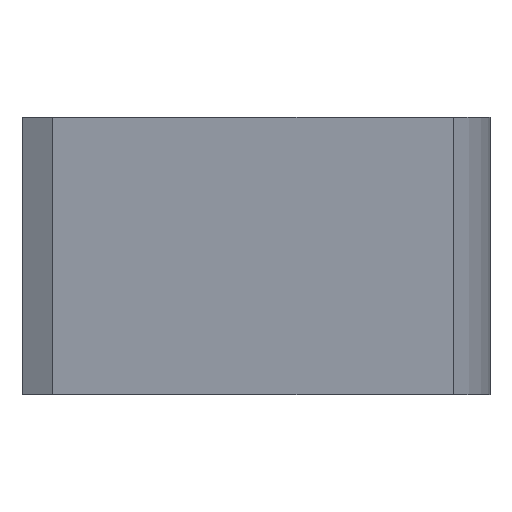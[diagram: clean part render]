
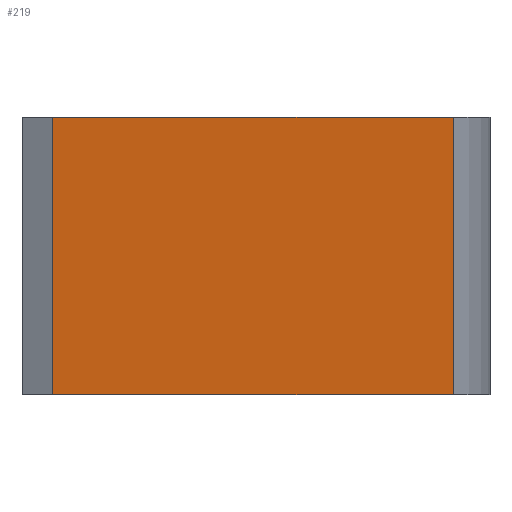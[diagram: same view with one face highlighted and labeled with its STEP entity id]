
A CAD part, front view. The second image highlights one B-rep face of the part: STEP entity #219.
In plain terms, the highlighted planar face has unit normal (0.854, -0.52, 0).
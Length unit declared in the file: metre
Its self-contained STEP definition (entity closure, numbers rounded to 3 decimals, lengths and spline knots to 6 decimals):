
#44=ORIENTED_EDGE('',*,*,#99,.F.);
#45=ORIENTED_EDGE('',*,*,#100,.T.);
#46=ORIENTED_EDGE('',*,*,#101,.T.);
#47=ORIENTED_EDGE('',*,*,#98,.F.);
#98=EDGE_CURVE('',#123,#122,#146,.T.);
#99=EDGE_CURVE('',#124,#123,#147,.T.);
#100=EDGE_CURVE('',#124,#125,#148,.T.);
#101=EDGE_CURVE('',#125,#122,#149,.T.);
#122=VERTEX_POINT('',#354);
#123=VERTEX_POINT('',#356);
#124=VERTEX_POINT('',#360);
#125=VERTEX_POINT('',#362);
#146=LINE('',#357,#171);
#147=LINE('',#359,#172);
#148=LINE('',#361,#173);
#149=LINE('',#363,#174);
#171=VECTOR('',#290,1.);
#172=VECTOR('',#293,1.);
#173=VECTOR('',#294,1.);
#174=VECTOR('',#295,1.);
#185=EDGE_LOOP('',(#44,#45,#46,#47));
#197=FACE_BOUND('',#185,.T.);
#209=PLANE('',#246);
#219=ADVANCED_FACE('',(#197),#209,.F.);
#246=AXIS2_PLACEMENT_3D('',#358,#291,#292);
#290=DIRECTION('',(0.,0.,1.));
#291=DIRECTION('',(-0.854,0.52,0.));
#292=DIRECTION('',(-0.52,-0.854,0.));
#293=DIRECTION('',(-0.52,-0.854,0.));
#294=DIRECTION('',(0.,0.,1.));
#295=DIRECTION('',(-0.52,-0.854,0.));
#354=CARTESIAN_POINT('',(-0.0675,-0.38415,0.));
#356=CARTESIAN_POINT('',(-0.0675,-0.38415,-0.033));
#357=CARTESIAN_POINT('',(-0.0675,-0.38415,-0.033));
#358=CARTESIAN_POINT('',(-0.0415,-0.341442,-0.033));
#359=CARTESIAN_POINT('',(-0.0415,-0.341442,-0.033));
#360=CARTESIAN_POINT('',(-0.019875,-0.30592,-0.033));
#361=CARTESIAN_POINT('',(-0.019875,-0.30592,0.));
#362=CARTESIAN_POINT('',(-0.019875,-0.30592,0.));
#363=CARTESIAN_POINT('',(-0.0415,-0.341442,0.));
